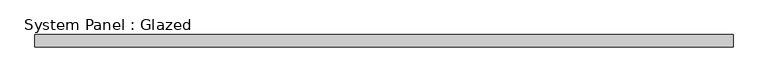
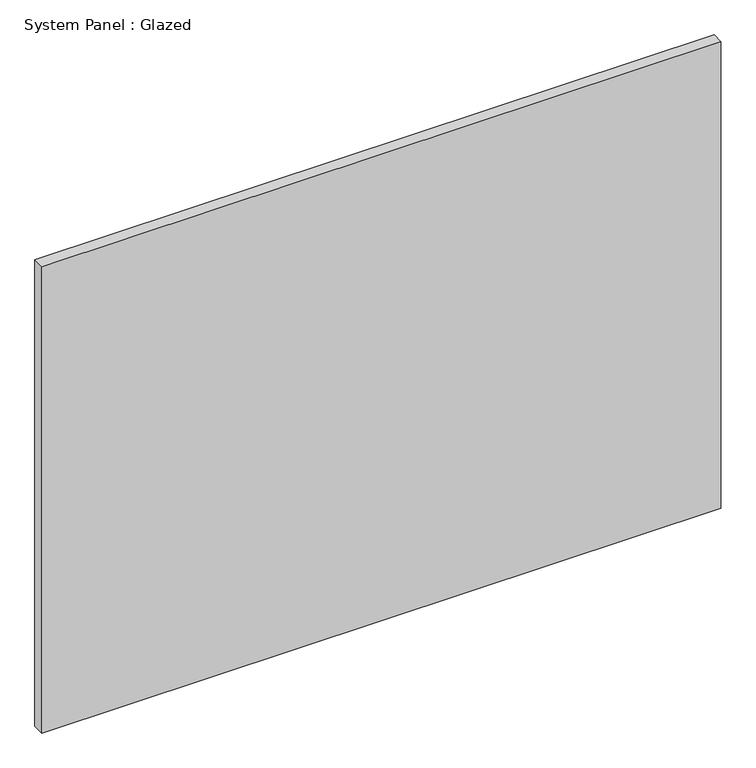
"""IFC4 building model written with IfcOpenShell, lengths in millimetres: plate geometry, System Panel : Glazed."""

import ifcopenshell
import ifcopenshell.guid

model = None  # the IFC model being written
_history = None  # IfcOwnerHistory: only IFC2X3 demands one
_inside = {}  # id of a spatial element -> (the spatial element, [elements in it])
_under = {}  # id of a project, library or spatial element -> (it, [spatial elements below it])
_declared = {}  # id of a project -> (the project, [libraries it declares])
_typed = {}  # id of a type object -> (the type object, [elements of that type])
_made_of = {}  # id of a material, layer set ... -> (it, [elements and type objects made of it])


def new_model(schema):
    """Start an empty IFC model of exactly this schema.

    Asked for "IFC4X3", IfcOpenShell would pick the latest addendum, in which some entities
    have other attributes; the version numbers below select the first issue.
    IFC2X3 requires an IfcOwnerHistory on every rooted entity: one is made here for all.
    """
    global model, _history
    if schema == "IFC4X3":
        model = ifcopenshell.file(schema_version=(4, 3, 0, 0))
    else:
        model = ifcopenshell.file(schema=schema)
    _inside.clear()
    _under.clear()
    _declared.clear()
    _typed.clear()
    _made_of.clear()
    _history = None
    if model.schema == "IFC2X3":
        org = make("IfcOrganization", Name="unknown")
        user = make(
            "IfcPersonAndOrganization",
            ThePerson=make("IfcPerson", FamilyName="unknown"),
            TheOrganization=org,
        )
        app = make(
            "IfcApplication",
            ApplicationDeveloper=org,
            Version="unknown",
            ApplicationFullName="unknown",
            ApplicationIdentifier="unknown",
        )
        _history = make(
            "IfcOwnerHistory",
            OwningUser=user,
            OwningApplication=app,
            ChangeAction="ADDED",
            CreationDate=0,
        )
    return model


def make(cls, **values):
    """One entity of the class cls with the attributes given. An attribute that is None is left unset."""
    return model.create_entity(
        cls, **{name: value for name, value in values.items() if value is not None}
    )


def rooted(cls, **values):
    """An entity with a GlobalId (a new one), such as an element, a storey or a relation."""
    return make(cls, GlobalId=ifcopenshell.guid.new(), OwnerHistory=_history, **values)


def si_unit(unit_type, name, prefix=None):
    """IfcSIUnit, for example si_unit("LENGTHUNIT", "METRE", prefix="MILLI")."""
    return make("IfcSIUnit", UnitType=unit_type, Prefix=prefix, Name=name)


def assignment(units):
    """IfcUnitAssignment: the units of a project."""
    return None if units is None else make("IfcUnitAssignment", Units=units)


def point(xyz):
    """IfcCartesianPoint."""
    return None if xyz is None else make("IfcCartesianPoint", Coordinates=xyz)


def direction(xyz):
    """IfcDirection."""
    return None if xyz is None else make("IfcDirection", DirectionRatios=xyz)


def frame(location, z_axis=None, x_axis=None):
    """IfcAxis2Placement3D, a coordinate frame: its origin and axes. An axis left out is left unset."""
    return make(
        "IfcAxis2Placement3D",
        Location=point(location),
        Axis=direction(z_axis),
        RefDirection=direction(x_axis),
    )


def origin():
    """The frame at (0, 0, 0) with its axes left unset."""
    return frame((0.0, 0.0, 0.0))


def origin_with_axes():
    """The frame at (0, 0, 0) with the z axis (0, 0, 1) and the x axis (1, 0, 0) written out."""
    return frame((0.0, 0.0, 0.0), z_axis=(0.0, 0.0, 1.0), x_axis=(1.0, 0.0, 0.0))


def place(relative_to, where):
    """IfcLocalPlacement: puts the frame where relative to a parent placement (None: the world)."""
    return make(
        "IfcLocalPlacement", PlacementRelTo=relative_to, RelativePlacement=where
    )


def context(
    kind, dimensions, precision=None, world=None, true_north=None, identifier=None
):
    """IfcGeometricRepresentationContext, for example the 3D "Model" context."""
    return make(
        "IfcGeometricRepresentationContext",
        ContextIdentifier=identifier,
        ContextType=kind,
        CoordinateSpaceDimension=dimensions,
        Precision=precision,
        WorldCoordinateSystem=world,
        TrueNorth=true_north,
    )


def project(units=None, contexts=None):
    """IfcProject with its units and contexts."""
    return rooted(
        "IfcProject",
        Name="project",
        RepresentationContexts=contexts,
        UnitsInContext=assignment(units),
    )


def spatial(cls, under=None, at=None, **own):
    """A site, building, storey or space (cls), placed at a placement, below another one or the project."""
    s = rooted(cls, ObjectPlacement=at, **own)
    if under is not None:
        _under.setdefault(under.id(), (under, []))[1].append(s)
    return s


def polyline(points):
    """IfcPolyline through the points."""
    return make("IfcPolyline", Points=[point(p) for p in points])


def outline(outer, holes=None, kind="AREA"):
    """IfcArbitraryClosedProfileDef: a profile drawn as a closed curve; with holes, ...WithVoids."""
    if holes is None:
        return make("IfcArbitraryClosedProfileDef", ProfileType=kind, OuterCurve=outer)
    return make(
        "IfcArbitraryProfileDefWithVoids",
        ProfileType=kind,
        OuterCurve=outer,
        InnerCurves=holes,
    )


def extrude(swept, where, along, depth):
    """IfcExtrudedAreaSolid: the profile swept, set in the frame where, extruded along a direction by depth."""
    return make(
        "IfcExtrudedAreaSolid",
        SweptArea=swept,
        Position=where,
        ExtrudedDirection=direction(along),
        Depth=depth,
    )


def shape(context_of_items, identifier, shape_type, items):
    """IfcShapeRepresentation: the items that make up one representation, for example the "Body"."""
    return make(
        "IfcShapeRepresentation",
        ContextOfItems=context_of_items,
        RepresentationIdentifier=identifier,
        RepresentationType=shape_type,
        Items=items,
    )


def source(mapping_origin, context_of_items, identifier, shape_type, items):
    """IfcRepresentationMap: a shape defined once, which mapped items show again and again."""
    return make(
        "IfcRepresentationMap",
        MappingOrigin=mapping_origin,
        MappedRepresentation=shape(context_of_items, identifier, shape_type, items),
    )


def transform(
    local_origin,
    x_axis=None,
    y_axis=None,
    z_axis=None,
    scale=None,
    scale2=None,
    scale3=None,
    uniform=True,
):
    """IfcCartesianTransformationOperator3D, or its non-uniform kind. x_axis, y_axis, z_axis: its Axis1, 2, 3."""
    if uniform:
        return make(
            "IfcCartesianTransformationOperator3D",
            Axis1=direction(x_axis),
            Axis2=direction(y_axis),
            LocalOrigin=point(local_origin),
            Scale=scale,
            Axis3=direction(z_axis),
        )
    return make(
        "IfcCartesianTransformationOperator3DnonUniform",
        Axis1=direction(x_axis),
        Axis2=direction(y_axis),
        LocalOrigin=point(local_origin),
        Scale=scale,
        Axis3=direction(z_axis),
        Scale2=scale2,
        Scale3=scale3,
    )


def mapped(mapping_source, mapping_target):
    """IfcMappedItem: shows the shape of a source again, moved by a transform."""
    return make(
        "IfcMappedItem", MappingSource=mapping_source, MappingTarget=mapping_target
    )


def made_of(thing, what):
    """Note that an element or type object is made of a material, layer set ...; save() writes the relation."""
    if what is not None:
        _made_of.setdefault(what.id(), (what, []))[1].append(thing)
    return thing


def element(
    cls,
    number,
    at=None,
    inside=None,
    cuts=None,
    type_object=None,
    material=None,
    context=None,
    identifier="Body",
    shape_type=None,
    held_by="IfcProductDefinitionShape",
    body=None,
    shapes=None,
    **own,
):
    """One element of the class cls, such as IfcWall. Its Tag is "e" and its number.

    at: its placement. inside: the storey or other place that contains it. cuts: it is an
    opening in that element (IfcRelVoidsElement). A single representation is given by context,
    identifier, shape_type and body (its items); several are given by shapes. held_by: the class
    of the entity that holds the representations. save() writes the other relations.
    """
    e = rooted(cls, Tag="e%d" % number, ObjectPlacement=at, **own)
    if body is not None:
        shapes = [shape(context, identifier, shape_type, body)]
    if shapes is not None:
        e.Representation = make(held_by, Representations=shapes)
    if inside is not None:
        _inside.setdefault(inside.id(), (inside, []))[1].append(e)
    if cuts is not None:
        rooted(
            "IfcRelVoidsElement", RelatingBuildingElement=cuts, RelatedOpeningElement=e
        )
    if type_object is not None:
        _typed.setdefault(type_object.id(), (type_object, []))[1].append(e)
    return made_of(e, material)


def aggregate(whole, parts):
    """IfcRelAggregates: a whole, such as a stair, and the parts it consists of."""
    return rooted("IfcRelAggregates", RelatingObject=whole, RelatedObjects=parts)


def save(model, path):
    """Write the relations noted so far, then the file.

    IfcRelAggregates (storeys below a building ...), IfcRelContainedInSpatialStructure (elements
    in a storey), IfcRelDefinesByType, IfcRelAssociatesMaterial and IfcRelDeclares: one each for
    every whole, place, type object, material and project.
    """
    for whole, parts in _under.values():
        aggregate(whole, parts)
    for where, things in _inside.values():
        rooted(
            "IfcRelContainedInSpatialStructure",
            RelatedElements=things,
            RelatingStructure=where,
        )
    for kind, things in _typed.values():
        rooted("IfcRelDefinesByType", RelatedObjects=things, RelatingType=kind)
    for what, things in _made_of.values():
        rooted("IfcRelAssociatesMaterial", RelatedObjects=things, RelatingMaterial=what)
    for by, libraries in _declared.values():
        rooted("IfcRelDeclares", RelatingContext=by, RelatedDefinitions=libraries)
    model.write(path)


def system_panel_glazed_a08e44d8(model_context):
    return source(origin(), model_context, "Body", "SweptSolid", [
        extrude(outline(polyline([(730.25, 19.05), (-730.25, 19.05), (-730.25, 44.45), (730.25, 44.45), (730.25, 19.05)])), origin_with_axes(), (0.0, 0.0, 1.0), 1060.45),
    ])


if __name__ == "__main__":
    model = new_model("IFC4")
    model_context = context("Model", 3, world=origin())
    ifc_project = project(units=[si_unit("LENGTHUNIT", "METRE", prefix="MILLI")], contexts=[model_context])
    site = spatial("IfcSite", under=ifc_project)
    building = spatial("IfcBuilding", under=site)
    placement = place(None, origin())
    system_panel_glazed_shape = system_panel_glazed_a08e44d8(model_context)
    element("IfcPlate", 1, ObjectType="System Panel : Glazed", at=placement, inside=building, context=model_context, shape_type="MappedRepresentation", body=[
        mapped(system_panel_glazed_shape, transform((0.0, 0.0, 0.0), x_axis=(1.0, 0.0, 0.0), y_axis=(0.0, 1.0, 0.0), z_axis=(0.0, 0.0, 1.0))),
    ])
    save(model, "model.ifc")
